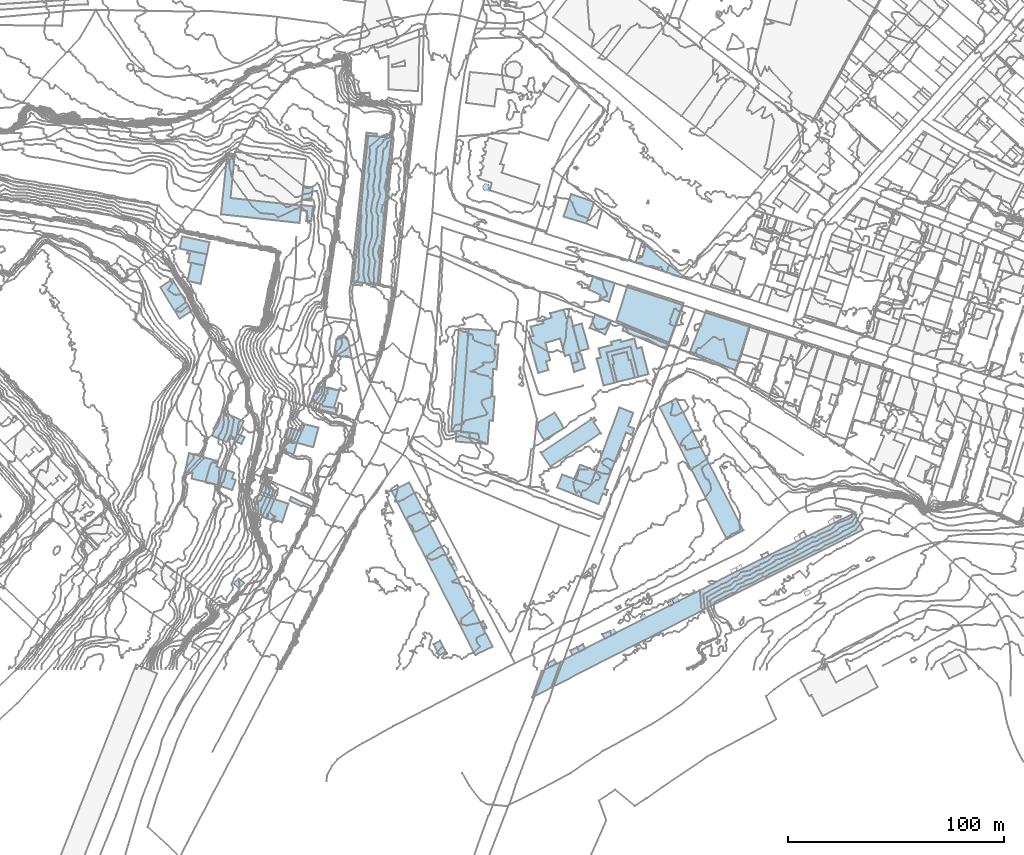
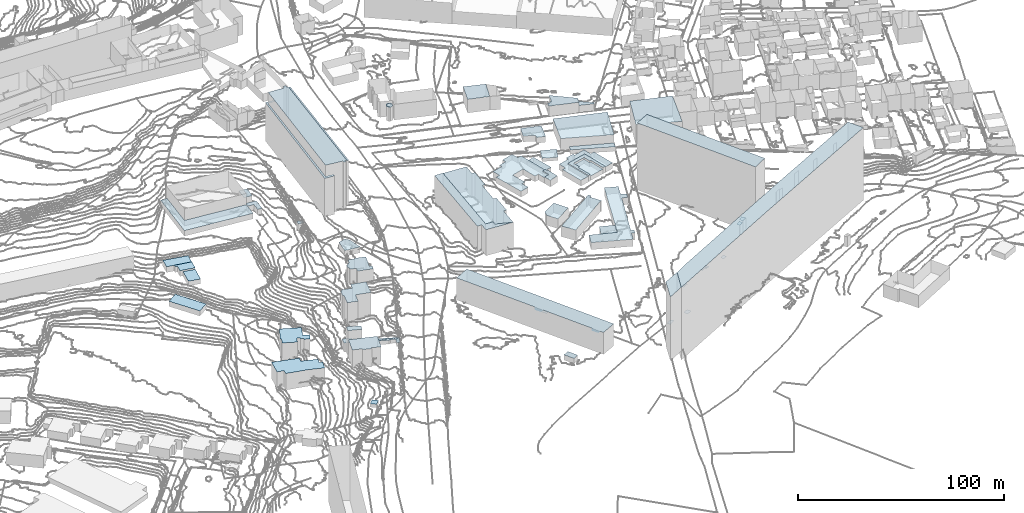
# Not in any storey, part 75 of 419: 58 roofs.
"""IFC2X3 model written with IfcOpenShell, lengths in metres."""

from ifc_helpers import new_model, si_unit, frame, origin_with_axes, place, context, subcontext, project, faceted_brep, element, save


model = new_model("IFC2X3")

# Units and contexts
model_context = context("Model", 3, precision=1e-05, world=origin_with_axes())
body_context = subcontext(model_context, "Body", "Model", "MODEL_VIEW")
ifc_project = project(units=[si_unit("AREAUNIT", "SQUARE_METRE"), si_unit("LENGTHUNIT", "METRE")], contexts=[model_context])

# Roofs
roof_1_placement = place(None, frame((775.4920204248, 16.0976909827, 70.1381985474), z_axis=(0.0, 0.0, 1.0), x_axis=(1.0, 0.0, 0.0)))
element("IfcRoof", 1, at=roof_1_placement, Name="Toiture 0", ShapeType="NOTDEFINED", context=body_context, shape_type="Brep", body=[
    faceted_brep([(0.0, 0.0, 24.5618014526), (0.7, -2.0, 24.5618014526), (3.0, -0.9000000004, 24.5618014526), (1.7999999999, 1.0999999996, 24.5618014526)], [[[0, 1, 2]], [[2, 3, 0]]]),
])
roof_2_placement = place(None, frame((766.0920204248, 156.0976909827, 75.7675977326), z_axis=(0.0, 0.0, 1.0), x_axis=(1.0, 0.0, 0.0)))
element("IfcRoof", 2, at=roof_2_placement, Name="Toiture 0", ShapeType="NOTDEFINED", context=body_context, shape_type="Brep", body=[
    faceted_brep([(10.0, 3.2000000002, 1.9324022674), (2.5, 6.0999999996, 1.9324022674), (0.0, 0.0, 1.9324022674), (7.2, -3.0, 1.9324022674)], [[[0, 1, 2]], [[2, 3, 0]]]),
])
roof_3_placement = place(None, frame((576.6920204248, 192.6976909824, 54.1280997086), z_axis=(0.0, 0.0, 1.0), x_axis=(1.0, 0.0, 0.0)))
element("IfcRoof", 3, at=roof_3_placement, Name="Toiture 0", ShapeType="NOTDEFINED", context=body_context, shape_type="Brep", body=[
    faceted_brep([(1.1, 5.7000000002, 3.3719002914), (0.0, 0.0, 3.3719002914), (12.6, -2.5999999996, 3.3719002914), (13.8, 3.0, 3.3719002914)], [[[0, 1, 2]], [[2, 3, 0]]]),
])
roof_4_placement = place(None, frame((765.6920204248, 173.8976909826, 76.811498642), z_axis=(0.0, 0.0, 1.0), x_axis=(1.0, 0.0, 0.0)))
element("IfcRoof", 4, at=roof_4_placement, Name="Toiture 0", ShapeType="NOTDEFINED", context=body_context, shape_type="Brep", body=[
    faceted_brep([(2.1, 6.0999999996, 3.488501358), (0.0, 0.0, 3.488501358), (5.4, -2.5999999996, 3.488501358), (5.0, -4.4000000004, 3.488501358), (9.4, -5.7000000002, 3.488501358), (12.0, 3.0, 3.488501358)], [[[0, 1, 2]], [[2, 3, 4]], [[4, 5, 0]], [[0, 2, 4]]]),
])
roof_5_placement = place(None, frame((632.5920204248, 210.3976909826, 59.9000015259), z_axis=(0.0, 0.0, 1.0), x_axis=(1.0, 0.0, 0.0)))
element("IfcRoof", 5, at=roof_5_placement, Name="Toiture 0", ShapeType="NOTDEFINED", context=body_context, shape_type="Brep", body=[
    faceted_brep([(5.7, 1.9000000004, 3.2999984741), (0.3, 2.5, 3.2999984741), (0.0, 0.0, 3.2999984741), (3.0, -0.2999999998, 3.2999984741), (2.6, -4.7999999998, 3.2999984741), (4.9, -5.0, 3.2999984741)], [[[0, 1, 2]], [[3, 4, 5]], [[0, 2, 3]], [[3, 5, 0]]]),
])
roof_6_placement = place(None, frame((757.0920204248, 7.1976909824, 70.2716003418), z_axis=(0.0, 0.0, 1.0), x_axis=(1.0, 0.0, 0.0)))
element("IfcRoof", 6, at=roof_6_placement, Name="Toiture 0", ShapeType="NOTDEFINED", context=body_context, shape_type="Brep", body=[
    faceted_brep([(0.0, 0.0, 25.2283996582), (1.2, -2.0999999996, 25.2283996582), (4.3, -0.5999999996, 25.2283996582), (3.3, 1.4000000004, 25.2283996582)], [[[0, 1, 2]], [[2, 3, 0]]]),
])
roof_7_placement = place(None, frame((694.0920204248, 9.9976909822, 71.9270027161), z_axis=(0.0, 0.0, 1.0), x_axis=(1.0, 0.0, 0.0)))
element("IfcRoof", 7, at=roof_7_placement, Name="Toiture 0", ShapeType="NOTDEFINED", context=body_context, shape_type="Brep", body=[
    faceted_brep([(0.0, 0.0, 3.0729972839), (2.6, -5.0999999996, 3.0729972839), (5.6, -3.5, 3.0729972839), (3.0, 1.6000000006, 3.0729972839)], [[[0, 1, 2]], [[2, 3, 0]]]),
])
roof_8_placement = place(None, frame((633.0920204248, 215.2976909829, 60.8579999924), z_axis=(0.0, 0.0, 1.0), x_axis=(1.0, 0.0, 0.0)))
element("IfcRoof", 8, at=roof_8_placement, Name="Toiture 0", ShapeType="NOTDEFINED", context=body_context, shape_type="Brep", body=[
    faceted_brep([(5.1, 5.7999999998, 4.1420000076), (0.7, 6.1999999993, 4.1420000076), (0.0, 0.0, 4.1420000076), (4.4, -0.4000000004, 4.1420000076)], [[[0, 1, 2]], [[2, 3, 0]]]),
])
roof_9_placement = place(None, frame((580.2920204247, 177.7976909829, 53.9178002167), z_axis=(0.0, 0.0, 1.0), x_axis=(1.0, 0.0, 0.0)))
element("IfcRoof", 9, at=roof_9_placement, Name="Toiture 0", ShapeType="NOTDEFINED", context=body_context, shape_type="Brep", body=[
    faceted_brep([(7.9, 7.0999999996, 2.7821997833), (1.8, 8.3999999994, 2.7821997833), (0.0, 0.0, 2.7821997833), (6.1000000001, -1.3000000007, 2.7821997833)], [[[0, 1, 2]], [[2, 3, 0]]]),
])
roof_10_placement = place(None, frame((580.1920204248, 190.5976909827, 54.1919986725), z_axis=(0.0, 0.0, 1.0), x_axis=(1.0, 0.0, 0.0)))
element("IfcRoof", 10, at=roof_10_placement, Name="Toiture 0", ShapeType="NOTDEFINED", context=body_context, shape_type="Brep", body=[
    faceted_brep([(9.1, -0.5, 3.4080013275), (0.3, 1.2999999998, 3.4080013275), (0.0, 0.0, 3.4080013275), (1.2000000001, -0.2000000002, 3.4080013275), (0.4, -4.1000000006, 3.4080013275), (8.0, -5.7000000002, 3.4080013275)], [[[0, 1, 2]], [[3, 4, 5]], [[0, 2, 3]], [[3, 5, 0]]]),
])
roof_11_placement = place(None, frame((627.4920204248, 76.2976909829, 64.1379997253), z_axis=(0.0, 0.0, 1.0), x_axis=(1.0, 0.0, 0.0)))
element("IfcRoof", 11, at=roof_11_placement, Name="Toiture 0", ShapeType="NOTDEFINED", context=body_context, shape_type="Brep", body=[
    faceted_brep([(7.4, -6.1000000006, 2.3620002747), (8.9, -6.8000000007, 2.3620002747), (10.7999999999, -3.0, 2.3620002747), (0.6, 1.6999999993, 2.3620002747), (0.0, 0.0, 2.3620002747), (5.2999999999, -2.5, 2.3620002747), (6.2, -2.3000000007, 2.3620002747), (8.7, -3.4000000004, 2.3620002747)], [[[0, 1, 2]], [[2, 3, 4]], [[4, 5, 6]], [[7, 0, 2]], [[2, 4, 6]], [[6, 7, 2]]]),
])
roof_12_placement = place(None, frame((700.3920204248, 49.5976909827, 72.1448019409), z_axis=(0.0, 0.0, 1.0), x_axis=(1.0, 0.0, 0.0)))
element("IfcRoof", 12, at=roof_12_placement, Name="Toiture 0", ShapeType="NOTDEFINED", context=body_context, shape_type="Brep", body=[
    faceted_brep([(1.6, 0.7000000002, 3.8551980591), (0.0, 0.0, 3.8551980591), (1.7, -3.1000000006, 3.8551980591), (3.3999999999, -2.5, 3.8551980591)], [[[0, 1, 2]], [[2, 3, 0]]]),
])
roof_13_placement = place(None, frame((773.9920204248, 144.7976909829, 75.1139984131), z_axis=(0.0, 0.0, 1.0), x_axis=(1.0, 0.0, 0.0)))
element("IfcRoof", 13, at=roof_13_placement, Name="Toiture 0", ShapeType="NOTDEFINED", context=body_context, shape_type="Brep", body=[
    faceted_brep([(0.0, 0.0, 3.6860015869), (3.5, -14.0, 3.6860015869), (4.7999999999, -13.6000000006, 3.6860015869), (2.7, -5.5, 3.6860015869), (3.5, -5.3000000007, 3.6860015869), (2.5, -1.4000000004, 3.6860015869), (9.2999999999, 0.2999999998, 3.6860015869), (10.2, -3.6000000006, 3.6860015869), (11.0, -3.4000000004, 3.6860015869), (13.0, -11.6000000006, 3.6860015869), (14.6, -11.2000000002, 3.6860015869), (11.1, 2.7999999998, 3.6860015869)], [[[0, 1, 2]], [[3, 4, 5]], [[6, 7, 8]], [[8, 9, 10]], [[0, 2, 3]], [[6, 8, 10]], [[0, 3, 5]], [[6, 10, 11]], [[11, 0, 5]], [[5, 6, 11]]]),
])
roof_14_placement = place(None, frame((753.9920204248, 207.4976909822, 77.5985978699), z_axis=(0.0, 0.0, 1.0), x_axis=(1.0, 0.0, 0.0)))
element("IfcRoof", 14, at=roof_14_placement, Name="Toiture 0", ShapeType="NOTDEFINED", context=body_context, shape_type="Brep", body=[
    faceted_brep([(14.2, 6.8000000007, 8.1014021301), (3.5, 10.4000000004, 8.1014021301), (0.0, 0.0, 8.1014021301), (10.6, -3.1999999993, 8.1014021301)], [[[0, 1, 2]], [[2, 3, 0]]]),
])
roof_15_placement = place(None, frame((787.2920204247, 186.2976909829, 76.8846023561), z_axis=(0.0, 0.0, 1.0), x_axis=(1.0, 0.0, 0.0)))
element("IfcRoof", 15, at=roof_15_placement, Name="Toiture 0", ShapeType="NOTDEFINED", context=body_context, shape_type="Brep", body=[
    faceted_brep([(0.8, 2.3999999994, 6.0153976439), (0.0, 0.0, 6.0153976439), (14.4, -4.5, 6.0153976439), (15.5, -1.1000000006, 6.0153976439), (4.6000000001, 7.8999999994, 6.0153976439), (3.1000000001, 2.5999999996, 6.0153976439), (2.2000000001, 3.0, 6.0153976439), (1.9, 2.0, 6.0153976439)], [[[0, 1, 2]], [[2, 3, 4]], [[5, 6, 7]], [[7, 0, 2]], [[2, 4, 5]], [[5, 7, 2]]]),
])
roof_16_placement = place(None, frame((579.1920204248, 89.7976909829, 46.9288002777), z_axis=(0.0, 0.0, 1.0), x_axis=(1.0, 0.0, 0.0)))
element("IfcRoof", 16, at=roof_16_placement, Name="Toiture 0", ShapeType="NOTDEFINED", context=body_context, shape_type="Brep", body=[
    faceted_brep([(3.5, -0.8000000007, 9.7711997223), (3.0, -3.3000000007, 9.7711997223), (14.2000000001, -6.0, 9.7711997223), (21.8, -8.6000000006, 9.7711997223), (23.4, -3.9000000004, 9.7711997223), (21.7000000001, -3.3000000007, 9.7711997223), (22.6, -0.6000000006, 9.7711997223), (14.6, 2.1999999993, 9.7711997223), (15.3, 4.6999999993, 9.7711997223), (1.8, 8.5, 9.7711997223), (0.0, 0.0, 9.7711997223)], [[[0, 1, 2]], [[2, 3, 4]], [[5, 6, 7]], [[7, 8, 9]], [[9, 10, 0]], [[0, 2, 4]], [[5, 7, 9]], [[0, 4, 5]], [[5, 9, 0]]]),
])
roof_17_placement = place(None, frame((595.7920204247, 208.5976909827, 59.3163995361), z_axis=(0.0, 0.0, 1.0), x_axis=(1.0, 0.0, 0.0)))
element("IfcRoof", 17, at=roof_17_placement, Name="Toiture 0", ShapeType="NOTDEFINED", context=body_context, shape_type="Brep", body=[
    faceted_brep([(6.4, 27.7999999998, 3.2836004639), (2.9, 28.0999999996, 3.2836004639), (0.0, 0.0, 3.2836004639), (36.3, -4.0, 3.2836004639), (37.1000000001, 4.0, 3.2836004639), (4.4, 7.5, 3.2836004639)], [[[0, 1, 2]], [[2, 3, 4]], [[5, 0, 2]], [[2, 4, 5]]]),
])
roof_18_placement = place(None, frame((643.3920204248, 180.3976909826, 63.0056015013), z_axis=(0.0, 0.0, 1.0), x_axis=(1.0, 0.0, 0.0)))
element("IfcRoof", 18, at=roof_18_placement, Name="Toiture 0", ShapeType="NOTDEFINED", context=body_context, shape_type="Brep", body=[
    faceted_brep([(2.7999999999, -0.5, 3.9943984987), (3.2, 1.7000000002, 3.9943984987), (0.3999999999, 2.2000000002, 3.9943984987), (0.0, 0.0, 3.9943984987)], [[[0, 1, 2]], [[2, 3, 0]]]),
])
roof_19_placement = place(None, frame((623.9920204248, 99.1976909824, 61.9557989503), z_axis=(0.0, 0.0, 1.0), x_axis=(1.0, 0.0, 0.0)))
element("IfcRoof", 19, at=roof_19_placement, Name="Toiture 0", ShapeType="NOTDEFINED", context=body_context, shape_type="Brep", body=[
    faceted_brep([(14.4, 1.7999999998, 14.3442010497), (16.7999999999, 10.7999999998, 14.3442010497), (9.2999999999, 12.7000000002, 14.3442010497), (8.2999999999, 9.5, 14.3442010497), (3.1, 10.9000000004, 14.3442010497), (2.7999999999, 10.0, 14.3442010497), (2.2, 10.1000000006, 14.3442010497), (1.0, 6.2999999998, 14.3442010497), (1.7, 6.1000000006, 14.3442010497), (0.0, 0.0, 14.3442010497), (5.2999999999, -1.5, 14.3442010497), (6.9, 3.7999999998, 14.3442010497)], [[[0, 1, 2]], [[3, 4, 5]], [[5, 6, 7]], [[8, 9, 10]], [[11, 0, 2]], [[3, 5, 7]], [[8, 10, 11]], [[11, 2, 3]], [[3, 7, 8]], [[8, 11, 3]]]),
])
roof_20_placement = place(None, frame((702.0920204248, 46.4976909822, 72.1290023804), z_axis=(0.0, 0.0, 1.0), x_axis=(1.0, 0.0, 0.0)))
element("IfcRoof", 20, at=roof_20_placement, Name="Toiture 0", ShapeType="NOTDEFINED", context=body_context, shape_type="Brep", body=[
    faceted_brep([(1.7, 0.6000000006, 3.5709976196), (0.0, 0.0, 3.5709976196), (1.6, -2.7999999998, 3.5709976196), (3.2, -2.0999999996, 3.5709976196)], [[[0, 1, 2]], [[2, 3, 0]]]),
])
roof_21_placement = place(None, frame((746.6920204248, 1.0976909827, 70.5879999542), z_axis=(0.0, 0.0, 1.0), x_axis=(1.0, 0.0, 0.0)))
element("IfcRoof", 21, at=roof_21_placement, Name="Toiture 0", ShapeType="NOTDEFINED", context=body_context, shape_type="Brep", body=[
    faceted_brep([(2.9, 1.7999999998, 10.1120000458), (0.0, 0.0, 10.1120000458), (0.8, -1.7000000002, 10.1120000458), (4.2000000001, 0.2000000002, 10.1120000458)], [[[0, 1, 2]], [[2, 3, 0]]]),
])
roof_22_placement = place(None, frame((760.3920204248, 8.5976909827, 70.1712017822), z_axis=(0.0, 0.0, 1.0), x_axis=(1.0, 0.0, 0.0)))
element("IfcRoof", 22, at=roof_22_placement, Name="Toiture 0", ShapeType="NOTDEFINED", context=body_context, shape_type="Brep", body=[
    faceted_brep([(0.0, 0.0, 7.5287982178), (1.0, -2.0, 7.5287982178), (3.7999999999, -0.7000000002, 7.5287982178), (2.6, 1.3999999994, 7.5287982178)], [[[0, 1, 2]], [[2, 3, 0]]]),
])
roof_23_placement = place(None, frame((610.4920204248, 70.8976909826, 59.464500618), z_axis=(0.0, 0.0, 1.0), x_axis=(1.0, 0.0, 0.0)))
element("IfcRoof", 23, at=roof_23_placement, Name="Toiture 0", ShapeType="NOTDEFINED", context=body_context, shape_type="Brep", body=[
    faceted_brep([(16.4, 4.0, 10.735499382), (2.7, 8.4000000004, 10.735499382), (0.0, 0.0, 10.735499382), (4.7, -1.5999999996, 10.735499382), (4.5, -2.2000000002, 10.735499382), (8.7999999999, -3.7000000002, 10.735499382), (9.0, -3.0, 10.735499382), (13.5, -4.5999999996, 10.735499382)], [[[0, 1, 2]], [[3, 4, 5]], [[6, 7, 0]], [[0, 2, 3]], [[3, 5, 6]], [[6, 0, 3]]]),
])
roof_24_placement = place(None, frame((812.4920204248, 145.2976909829, 75.759199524), z_axis=(0.0, 0.0, 1.0), x_axis=(1.0, 0.0, 0.0)))
element("IfcRoof", 24, at=roof_24_placement, Name="Toiture 0", ShapeType="NOTDEFINED", context=body_context, shape_type="Brep", body=[
    faceted_brep([(0.0, 0.0, 12.140800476), (20.9, -8.8000000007, 12.140800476), (27.6, 12.2999999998, 12.140800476), (7.4, 18.7999999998, 12.140800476)], [[[0, 1, 2]], [[2, 3, 0]]]),
])
roof_25_placement = place(None, frame((778.4920204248, 159.4976909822, 76.3899993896), z_axis=(0.0, 0.0, 1.0), x_axis=(1.0, 0.0, 0.0)))
element("IfcRoof", 25, at=roof_25_placement, Name="Toiture 0", ShapeType="NOTDEFINED", context=body_context, shape_type="Brep", body=[
    faceted_brep([(5.1, 16.4000000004, 6.6100006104), (0.0, 0.0, 6.6100006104), (24.1, -10.0999999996, 6.6100006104), (30.9, 8.1000000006, 6.6100006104)], [[[0, 1, 2]], [[2, 3, 0]]]),
])
roof_26_placement = place(None, frame((601.4920204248, 37.9976909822, 59.4713992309), z_axis=(0.0, 0.0, 1.0), x_axis=(1.0, 0.0, 0.0)))
element("IfcRoof", 26, at=roof_26_placement, Name="Toiture 0", ShapeType="NOTDEFINED", context=body_context, shape_type="Brep", body=[
    faceted_brep([(0.0, 0.0, 2.0286007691), (2.4, -2.0999999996, 2.0286007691), (4.9, 0.3000000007, 2.0286007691), (2.5, 2.4000000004, 2.0286007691)], [[[0, 1, 2]], [[2, 3, 0]]]),
])
roof_27_placement = place(None, frame((613.7920204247, 84.6976909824, 59.4539994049), z_axis=(0.0, 0.0, 1.0), x_axis=(1.0, 0.0, 0.0)))
element("IfcRoof", 27, at=roof_27_placement, Name="Toiture 0", ShapeType="NOTDEFINED", context=body_context, shape_type="Brep", body=[
    faceted_brep([(5.5, 2.2000000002, 5.2460005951), (1.0, 3.5, 5.2460005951), (0.0, 0.0, 5.2460005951), (4.5, -1.2999999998, 5.2460005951)], [[[0, 1, 2]], [[2, 3, 0]]]),
])
roof_28_placement = place(None, frame((613.5920204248, 80.5976909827, 59.6855998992), z_axis=(0.0, 0.0, 1.0), x_axis=(1.0, 0.0, 0.0)))
element("IfcRoof", 28, at=roof_28_placement, Name="Toiture 0", ShapeType="NOTDEFINED", context=body_context, shape_type="Brep", body=[
    faceted_brep([(7.6, 0.2999999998, 15.0144001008), (0.9, 3.2000000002, 15.0144001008), (0.0, 0.0, 15.0144001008), (6.5, -2.4000000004, 15.0144001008)], [[[0, 1, 2]], [[2, 3, 0]]]),
])
roof_29_placement = place(None, frame((804.1920204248, 30.5976909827, 70.0514993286), z_axis=(0.0, 0.0, 1.0), x_axis=(1.0, 0.0, 0.0)))
element("IfcRoof", 29, at=roof_29_placement, Name="Toiture 0", ShapeType="NOTDEFINED", context=body_context, shape_type="Brep", body=[
    faceted_brep([(0.9, -1.9000000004, 34.1485006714), (3.5, -0.5, 34.1485006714), (2.3, 1.5, 34.1485006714), (0.0, 0.0, 34.1485006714)], [[[0, 1, 2]], [[2, 3, 0]]]),
])
roof_30_placement = place(None, frame((801.8920204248, 28.9976909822, 70.0737995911), z_axis=(0.0, 0.0, 1.0), x_axis=(1.0, 0.0, 0.0)))
element("IfcRoof", 30, at=roof_30_placement, Name="Toiture 0", ShapeType="NOTDEFINED", context=body_context, shape_type="Brep", body=[
    faceted_brep([(0.7999999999, -1.5999999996, 33.1262004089), (3.2, -0.2999999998, 33.1262004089), (2.2999999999, 1.6000000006, 33.1262004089), (0.0, 0.0, 33.1262004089)], [[[0, 1, 2]], [[2, 3, 0]]]),
])
roof_31_placement = place(None, frame((789.2920204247, 22.8976909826, 70.1088000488), z_axis=(0.0, 0.0, 1.0), x_axis=(1.0, 0.0, 0.0)))
element("IfcRoof", 31, at=roof_31_placement, Name="Toiture 0", ShapeType="NOTDEFINED", context=body_context, shape_type="Brep", body=[
    faceted_brep([(0.0, 0.0, 21.3911999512), (0.6000000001, -1.7000000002, 21.3911999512), (3.1000000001, -0.5, 21.3911999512), (2.1000000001, 1.2999999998, 21.3911999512)], [[[0, 1, 2]], [[2, 3, 0]]]),
])
roof_32_placement = place(None, frame((801.6920204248, 181.7976909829, 76.7789985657), z_axis=(0.0, 0.0, 1.0), x_axis=(1.0, 0.0, 0.0)))
element("IfcRoof", 32, at=roof_32_placement, Name="Toiture 0", ShapeType="NOTDEFINED", context=body_context, shape_type="Brep", body=[
    faceted_brep([(1.1, 3.3999999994, 4.2210014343), (0.0, 0.0, 4.2210014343), (7.0, -2.4000000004, 4.2210014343), (7.6, -1.7000000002, 4.2210014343)], [[[0, 1, 2]], [[2, 3, 0]]]),
])
roof_33_placement = place(None, frame((776.4920204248, 143.3976909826, 75.1452017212), z_axis=(0.0, 0.0, 1.0), x_axis=(1.0, 0.0, 0.0)))
element("IfcRoof", 33, at=roof_33_placement, Name="Toiture 0", ShapeType="NOTDEFINED", context=body_context, shape_type="Brep", body=[
    faceted_brep([(0.2, -4.0999999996, 2.6547982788), (2.2999999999, -12.2000000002, 2.6547982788), (10.5, -10.2000000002, 2.6547982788), (8.5, -2.0, 2.6547982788), (7.7, -2.2000000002, 2.6547982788), (6.7999999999, 1.7000000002, 2.6547982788), (0.0, 0.0, 2.6547982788), (1.0, -3.9000000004, 2.6547982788)], [[[0, 1, 2]], [[2, 3, 4]], [[4, 5, 6]], [[7, 0, 2]], [[2, 4, 6]], [[6, 7, 2]]]),
])
roof_34_placement = place(None, frame((769.3920204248, 141.9976909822, 75.0448005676), z_axis=(0.0, 0.0, 1.0), x_axis=(1.0, 0.0, 0.0)))
element("IfcRoof", 34, at=roof_34_placement, Name="Toiture 0", ShapeType="NOTDEFINED", context=body_context, shape_type="Brep", body=[
    faceted_brep([(3.2, -12.3999999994, 3.3551994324), (8.1, -11.1999999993, 3.3551994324), (4.6, 2.8000000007, 3.3551994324), (15.7, 5.6000000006, 3.3551994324), (19.2, -8.3999999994, 3.3551994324), (23.8999999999, -7.1999999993, 3.3551994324), (20.7, 5.3000000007, 3.3551994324), (18.6, 4.7000000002, 3.3551994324), (17.3999999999, 9.3000000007, 3.3551994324), (11.2999999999, 7.7000000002, 3.3551994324), (11.0, 8.8000000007, 3.3551994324), (6.6, 7.7000000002, 3.3551994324), (7.0, 6.3000000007, 3.3551994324), (0.8999999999, 4.7000000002, 3.3551994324), (1.8999999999, 0.5, 3.3551994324), (0.0, 0.0, 3.3551994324)], [[[0, 1, 2]], [[3, 4, 5]], [[5, 6, 7]], [[7, 8, 9]], [[9, 10, 11]], [[12, 13, 14]], [[14, 15, 0]], [[3, 5, 7]], [[9, 11, 12]], [[14, 0, 2]], [[3, 7, 9]], [[12, 14, 2]], [[2, 3, 9]], [[9, 12, 2]]]),
])
roof_35_placement = place(None, frame((741.8920204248, 109.6976909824, 74.6950004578), z_axis=(0.0, 0.0, 1.0), x_axis=(1.0, 0.0, 0.0)))
element("IfcRoof", 35, at=roof_35_placement, Name="Toiture 0", ShapeType="NOTDEFINED", context=body_context, shape_type="Brep", body=[
    faceted_brep([(0.0, 0.0, 5.8049995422), (3.2, -5.2999999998, 5.8049995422), (12.2999999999, 0.2000000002, 5.8049995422), (8.1, 7.4000000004, 5.8049995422), (0.6, 2.9000000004, 5.8049995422)], [[[0, 1, 2]], [[2, 3, 4]], [[4, 0, 2]]]),
])
roof_36_placement = place(None, frame((668.0920204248, 176.0976909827, 71.9225025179), z_axis=(0.0, 0.0, 1.0), x_axis=(1.0, 0.0, 0.0)))
element("IfcRoof", 36, at=roof_36_placement, Name="Toiture 0", ShapeType="NOTDEFINED", context=body_context, shape_type="Brep", body=[
    faceted_brep([(7.5, 67.7999999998, 26.5774974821), (6.5, 67.8999999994, 26.5774974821), (0.0, 0.0, 26.5774974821), (1.0, -0.1000000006, 26.5774974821)], [[[0, 1, 2]], [[2, 3, 0]]]),
])
roof_37_placement = place(None, frame((758.2920204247, 156.9976909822, 75.5342018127), z_axis=(0.0, 0.0, 1.0), x_axis=(1.0, 0.0, 0.0)))
element("IfcRoof", 37, at=roof_37_placement, Name="Toiture 0", ShapeType="NOTDEFINED", context=body_context, shape_type="Brep", body=[
    faceted_brep([(4.2000000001, 1.2000000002, 2.7657981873), (0.0, 0.0, 2.7657981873), (3.2000000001, -11.5, 2.7657981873), (7.4, -10.3999999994, 2.7657981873)], [[[0, 1, 2]], [[2, 3, 0]]]),
])
roof_38_placement = place(None, frame((716.4920204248, 221.2976909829, 78.1391992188), z_axis=(0.0, 0.0, 1.0), x_axis=(1.0, 0.0, 0.0)))
element("IfcRoof", 38, at=roof_38_placement, Name="Toiture 0", ShapeType="NOTDEFINED", context=body_context, shape_type="Brep", body=[
    faceted_brep([(3.2, 0.2999999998, 8.3608007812), (2.7999999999, 1.1999999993, 8.3608007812), (1.4, 1.6999999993, 8.3608007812), (0.7, 1.3999999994, 8.3608007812), (0.0, 0.0, 8.3608007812), (0.5, -1.4000000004, 8.3608007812), (1.2, -1.8000000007, 8.3608007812), (2.9, -1.3000000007, 8.3608007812)], [[[0, 1, 2]], [[2, 3, 4]], [[4, 5, 6]], [[6, 7, 0]], [[0, 2, 4]], [[4, 6, 0]]]),
])
roof_39_placement = place(None, frame((715.4920204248, 19.9976909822, 71.8315977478), z_axis=(0.0, 0.0, 1.0), x_axis=(1.0, 0.0, 0.0)))
element("IfcRoof", 39, at=roof_39_placement, Name="Toiture 0", ShapeType="NOTDEFINED", context=body_context, shape_type="Brep", body=[
    faceted_brep([(1.7, -3.0999999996, 4.3684022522), (3.1, -2.5, 4.3684022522), (1.4, 0.8000000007, 4.3684022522), (0.0, 0.0, 4.3684022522)], [[[0, 1, 2]], [[2, 3, 0]]]),
])
roof_40_placement = place(None, frame((648.0920204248, 143.3976909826, 68.536000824), z_axis=(0.0, 0.0, 1.0), x_axis=(1.0, 0.0, 0.0)))
element("IfcRoof", 40, at=roof_40_placement, Name="Toiture 0", ShapeType="NOTDEFINED", context=body_context, shape_type="Brep", body=[
    faceted_brep([(0.0, 0.0, 3.463999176), (8.1, -1.0, 3.463999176), (6.6, 6.5, 3.463999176), (5.0, 8.4000000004, 3.463999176), (1.1, 7.5, 3.463999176)], [[[0, 1, 2]], [[2, 3, 4]], [[4, 0, 2]]]),
])
roof_41_placement = place(None, frame((655.7920204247, 176.1976909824, 69.400798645), z_axis=(0.0, 0.0, 1.0), x_axis=(1.0, 0.0, 0.0)))
element("IfcRoof", 41, at=roof_41_placement, Name="Toiture 0", ShapeType="NOTDEFINED", context=body_context, shape_type="Brep", body=[
    faceted_brep([(8.0, 68.7000000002, 22.799201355), (11.9, 68.4000000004, 22.799201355), (12.0, 69.6000000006, 22.799201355), (0.0, 0.0, 22.799201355), (5.2000000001, -0.5, 22.799201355), (5.4, 0.7999999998, 22.799201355), (7.2000000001, 70.1000000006, 22.799201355), (1.2000000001, 1.2999999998, 22.799201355)], [[[0, 1, 2]], [[3, 4, 5]], [[0, 2, 6]], [[3, 5, 7]], [[7, 0, 6]], [[6, 3, 7]]]),
])
roof_42_placement = place(None, frame((591.5920204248, 106.2976909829, 48.8435992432), z_axis=(0.0, 0.0, 1.0), x_axis=(1.0, 0.0, 0.0)))
element("IfcRoof", 42, at=roof_42_placement, Name="Toiture 0", ShapeType="NOTDEFINED", context=body_context, shape_type="Brep", body=[
    faceted_brep([(2.2, 5.8999999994, 10.6564007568), (0.8, 3.2999999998, 10.6564007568), (1.4, 3.0, 10.6564007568), (0.0, 0.0, 10.6564007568), (6.8, -3.0, 10.6564007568), (9.9, -0.7000000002, 10.6564007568), (9.6, -1.4000000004, 10.6564007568), (11.0, -2.1000000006, 10.6564007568), (10.8, -2.7000000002, 10.6564007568), (13.6, -3.7000000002, 10.6564007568), (15.1, -0.6000000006, 10.6564007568), (11.9, 0.6999999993, 10.6564007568), (14.7, 6.6999999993, 10.6564007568), (4.7, 11.0, 10.6564007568), (8.3, 0.0, 10.6564007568)], [[[0, 1, 2]], [[2, 3, 4]], [[5, 6, 7]], [[7, 8, 9]], [[9, 10, 11]], [[11, 12, 13]], [[13, 0, 2]], [[2, 4, 14]], [[5, 7, 9]], [[9, 11, 13]], [[13, 2, 14]], [[5, 9, 13]], [[13, 14, 5]]]),
])
roof_43_placement = place(None, frame((757.9920204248, 139.6976909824, 75.5514982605), z_axis=(0.0, 0.0, 1.0), x_axis=(1.0, 0.0, 0.0)))
element("IfcRoof", 43, at=roof_43_placement, Name="Toiture 0", ShapeType="NOTDEFINED", context=body_context, shape_type="Brep", body=[
    faceted_brep([(2.9, 0.7999999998, 3.8485017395), (0.0, 0.0, 3.8485017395), (1.0, -3.8999999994, 3.8485017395), (5.9, -2.2000000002, 3.8485017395), (4.2999999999, 4.2000000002, 3.8485017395), (3.7999999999, 4.1000000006, 3.8485017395), (3.6, 5.4000000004, 3.8485017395), (1.7999999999, 4.9000000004, 3.8485017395)], [[[0, 1, 2]], [[2, 3, 4]], [[5, 6, 7]], [[0, 2, 4]], [[5, 7, 0]], [[0, 4, 5]]]),
])
roof_44_placement = place(None, frame((771.8920204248, 14.5976909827, 70.1153973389), z_axis=(0.0, 0.0, 1.0), x_axis=(1.0, 0.0, 0.0)))
element("IfcRoof", 44, at=roof_44_placement, Name="Toiture 0", ShapeType="NOTDEFINED", context=body_context, shape_type="Brep", body=[
    faceted_brep([(1.2999999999, -2.0, 25.5846026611), (4.2999999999, -0.5, 25.5846026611), (3.6, 1.5, 25.5846026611), (0.0, 0.0, 25.5846026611)], [[[0, 1, 2]], [[2, 3, 0]]]),
])
roof_45_placement = place(None, frame((781.1920204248, 154.8976909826, 75.5269006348), z_axis=(0.0, 0.0, 1.0), x_axis=(1.0, 0.0, 0.0)))
element("IfcRoof", 45, at=roof_45_placement, Name="Toiture 0", ShapeType="NOTDEFINED", context=body_context, shape_type="Brep", body=[
    faceted_brep([(21.4, -5.5, 2.5730993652), (1.1, 2.7000000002, 2.5730993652), (0.0, 0.0, 2.5730993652), (20.3, -8.5999999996, 2.5730993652)], [[[0, 1, 2]], [[2, 3, 0]]]),
])
roof_46_placement = place(None, frame((758.8920204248, 86.2976909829, 73.9479999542), z_axis=(0.0, 0.0, 1.0), x_axis=(1.0, 0.0, 0.0)))
element("IfcRoof", 46, at=roof_46_placement, Name="Toiture 0", ShapeType="NOTDEFINED", context=body_context, shape_type="Brep", body=[
    faceted_brep([(2.7999999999, 6.5999999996, 3.1520000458), (0.0, 0.0, 3.1520000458), (7.6, -2.7000000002, 3.1520000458), (10.0, 3.7999999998, 3.1520000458)], [[[0, 1, 2]], [[2, 3, 0]]]),
])
roof_47_placement = place(None, frame((674.6920204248, 80.6976909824, 71.4930007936), z_axis=(0.0, 0.0, 1.0), x_axis=(1.0, 0.0, 0.0)))
element("IfcRoof", 47, at=roof_47_placement, Name="Toiture 0", ShapeType="NOTDEFINED", context=body_context, shape_type="Brep", body=[
    faceted_brep([(46.6, -71.7999999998, 13.0069992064), (11.0, -1.7000000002, 13.0069992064), (8.0, 4.1000000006, 13.0069992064), (0.0, 0.0, 13.0069992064), (38.6, -75.5999999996, 13.0069992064)], [[[0, 1, 2]], [[2, 3, 4]], [[4, 0, 2]]]),
])
roof_48_placement = place(None, frame((743.4920204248, 98.7976909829, 73.9909980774), z_axis=(0.0, 0.0, 1.0), x_axis=(1.0, 0.0, 0.0)))
element("IfcRoof", 48, at=roof_48_placement, Name="Toiture 0", ShapeType="NOTDEFINED", context=body_context, shape_type="Brep", body=[
    faceted_brep([(27.2999999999, 8.5999999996, 6.3090019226), (27.9, 8.5999999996, 6.3090019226), (24.4, 14.0, 6.3090019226), (25.5, 14.6999999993, 6.3090019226), (24.7, 16.0, 6.3090019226), (23.5, 15.1999999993, 6.3090019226), (23.2, 15.5999999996, 6.3090019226), (23.1, 14.8999999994, 6.3090019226), (0.5, -0.2000000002, 6.3090019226), (0.0, 0.0, 6.3090019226), (4.7, -6.9000000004, 6.3090019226), (4.7999999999, -6.5, 6.3090019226)], [[[0, 1, 2]], [[2, 3, 4]], [[5, 6, 7]], [[8, 9, 10]], [[11, 0, 2]], [[2, 4, 5]], [[8, 10, 11]], [[11, 2, 5]], [[7, 8, 11]], [[11, 5, 7]]]),
])
roof_49_placement = place(None, frame((638.2920204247, 123.6976909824, 68.2908021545), z_axis=(0.0, 0.0, 1.0), x_axis=(1.0, 0.0, 0.0)))
element("IfcRoof", 49, at=roof_49_placement, Name="Toiture 0", ShapeType="NOTDEFINED", context=body_context, shape_type="Brep", body=[
    faceted_brep([(9.7000000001, -4.2999999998, 9.1091978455), (12.2000000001, 3.4000000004, 9.1091978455), (6.8, 5.0, 9.1091978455), (6.7000000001, 4.6000000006, 9.1091978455), (3.4, 5.4000000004, 9.1091978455), (2.5, 2.7999999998, 9.1091978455), (1.9, 3.0, 9.1091978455), (1.6000000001, 2.2000000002, 9.1091978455), (0.6000000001, 1.9000000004, 9.1091978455), (0.0, 0.0, 9.1091978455), (0.5, -1.0, 9.1091978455), (0.2000000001, -1.8999999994, 9.1091978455), (3.3, -2.7999999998, 9.1091978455), (2.6000000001, -5.0999999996, 9.1091978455), (10.3, -7.2000000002, 9.1091978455), (11.1000000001, -4.7999999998, 9.1091978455)], [[[0, 1, 2]], [[3, 4, 5]], [[5, 6, 7]], [[7, 8, 9]], [[10, 11, 12]], [[12, 13, 14]], [[14, 15, 0]], [[0, 2, 3]], [[3, 5, 7]], [[7, 9, 10]], [[10, 12, 14]], [[14, 0, 3]], [[3, 7, 10]], [[10, 14, 3]]]),
])
roof_50_placement = place(None, frame((567.7920204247, 174.9976909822, 47.8444007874), z_axis=(0.0, 0.0, 1.0), x_axis=(1.0, 0.0, 0.0)))
element("IfcRoof", 50, at=roof_50_placement, Name="Toiture 0", ShapeType="NOTDEFINED", context=body_context, shape_type="Brep", body=[
    faceted_brep([(8.9, -14.5999999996, 3.0555992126), (14.5, -10.8999999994, 3.0555992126), (5.6000000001, 3.7000000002, 3.0555992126), (0.0, 0.0, 3.0555992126)], [[[0, 1, 2]], [[2, 3, 0]]]),
])
roof_51_placement = place(None, frame((656.9920204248, 177.4976909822, 69.8758000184), z_axis=(0.0, 0.0, 1.0), x_axis=(1.0, 0.0, 0.0)))
element("IfcRoof", 51, at=roof_51_placement, Name="Toiture 0", ShapeType="NOTDEFINED", context=body_context, shape_type="Brep", body=[
    faceted_brep([(11.1, -1.3999999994, 28.9241999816), (17.6, 66.5, 28.9241999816), (16.9, 66.6000000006, 28.9241999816), (17.0, 68.0, 28.9241999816), (15.4, 68.1000000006, 28.9241999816), (15.2999999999, 66.7000000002, 28.9241999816), (6.7999999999, 67.4000000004, 28.9241999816), (0.0, 0.0, 28.9241999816), (9.1, -1.0999999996, 28.9241999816), (8.9, -2.1999999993, 28.9241999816), (10.1, -2.2999999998, 28.9241999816), (10.2, -1.2999999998, 28.9241999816)], [[[0, 1, 2]], [[2, 3, 4]], [[5, 6, 7]], [[8, 9, 10]], [[11, 0, 2]], [[2, 4, 5]], [[5, 7, 8]], [[8, 10, 11]], [[11, 2, 5]], [[5, 8, 11]]]),
])
roof_52_placement = place(None, frame((739.4920204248, -14.6023090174, 70.4319984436), z_axis=(0.0, 0.0, 1.0), x_axis=(1.0, 0.0, 0.0)))
element("IfcRoof", 52, at=roof_52_placement, Name="Toiture 0", ShapeType="NOTDEFINED", context=body_context, shape_type="Brep", body=[
    faceted_brep([(8.7, 4.5, 37.8680015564), (13.2999999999, 16.5, 37.8680015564), (4.5, 12.2000000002, 37.8680015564), (0.0, 0.0, 37.8680015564)], [[[0, 1, 2]], [[2, 3, 0]]]),
])
roof_53_placement = place(None, frame((748.1920204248, -10.1023090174, 65.1494976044), z_axis=(0.0, 0.0, 1.0), x_axis=(1.0, 0.0, 0.0)))
element("IfcRoof", 53, at=roof_53_placement, Name="Toiture 0", ShapeType="NOTDEFINED", context=body_context, shape_type="Brep", body=[
    faceted_brep([(10.1, 15.2000000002, 43.0505023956), (4.6, 12.0, 43.0505023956), (0.0, 0.0, 43.0505023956), (68.8, 35.2000000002, 43.0505023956), (144.3, 73.0, 43.0505023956), (140.2000000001, 80.7999999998, 43.0505023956), (86.1, 53.9000000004, 43.0505023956)], [[[0, 1, 2]], [[3, 4, 5]], [[5, 6, 0]], [[0, 2, 3]], [[3, 5, 0]]]),
])
roof_54_placement = place(None, frame((798.3920204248, 119.5976909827, 69.8219974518), z_axis=(0.0, 0.0, 1.0), x_axis=(1.0, 0.0, 0.0)))
element("IfcRoof", 54, at=roof_54_placement, Name="Toiture 0", ShapeType="NOTDEFINED", context=body_context, shape_type="Brep", body=[
    faceted_brep([(0.0, 0.0, 39.6780025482), (31.1, -61.0, 39.6780025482), (38.7, -56.9000000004, 39.6780025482), (7.7, 3.8999999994, 39.6780025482)], [[[0, 1, 2]], [[2, 3, 0]]]),
])
roof_55_placement = place(None, frame((750.9920204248, 82.3976909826, 73.4999984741), z_axis=(0.0, 0.0, 1.0), x_axis=(1.0, 0.0, 0.0)))
element("IfcRoof", 55, at=roof_55_placement, Name="Toiture 0", ShapeType="NOTDEFINED", context=body_context, shape_type="Brep", body=[
    faceted_brep([(7.9, 3.9000000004, 4.2000015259), (2.4, 6.0, 4.2000015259), (0.0, 0.0, 4.2000015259), (19.2, -7.7000000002, 4.2000015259), (21.1, -2.7999999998, 4.2000015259), (22.7, -3.4000000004, 4.2000015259), (23.5, -1.2000000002, 4.2000015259), (31.9, 25.2999999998, 4.2000015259), (34.6, 24.2000000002, 4.2000015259), (35.7, 27.2000000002, 4.2000015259), (32.9, 28.2999999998, 4.2000015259), (35.2, 34.5, 4.2000015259), (28.7999999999, 37.0, 4.2000015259), (15.5, 1.2000000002, 4.2000015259), (21.9, -0.5999999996, 4.2000015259)], [[[0, 1, 2]], [[2, 3, 4]], [[4, 5, 6]], [[7, 8, 9]], [[10, 11, 12]], [[13, 0, 2]], [[2, 4, 6]], [[7, 9, 10]], [[10, 12, 13]], [[13, 2, 6]], [[14, 7, 10]], [[13, 6, 14]], [[14, 10, 13]]]),
])
roof_56_placement = place(None, frame((737.7920204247, 151.7976909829, 75.5720001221), z_axis=(0.0, 0.0, 1.0), x_axis=(1.0, 0.0, 0.0)))
element("IfcRoof", 56, at=roof_56_placement, Name="Toiture 0", ShapeType="NOTDEFINED", context=body_context, shape_type="Brep", body=[
    faceted_brep([(0.0, 0.0, 3.4279998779), (4.6000000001, -16.4000000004, 3.4279998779), (9.3, -15.1000000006, 3.4279998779), (8.2000000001, -11.1000000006, 3.4279998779), (10.1000000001, -10.5, 3.4279998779), (7.9, -2.5, 3.4279998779), (14.7000000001, -0.6000000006, 3.4279998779), (16.9, -8.6000000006, 3.4279998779), (19.1000000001, -8.0, 3.4279998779), (20.2000000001, -12.1000000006, 3.4279998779), (23.1000000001, -11.3000000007, 3.4279998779), (22.0, -7.2000000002, 3.4279998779), (23.8, -6.7000000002, 3.4279998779), (19.6000000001, 9.5999999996, 3.4279998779), (17.5, 9.0, 3.4279998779), (16.4, 12.8999999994, 3.4279998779), (10.1000000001, 11.0999999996, 3.4279998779), (10.7000000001, 9.0999999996, 3.4279998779), (6.6000000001, 7.8999999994, 3.4279998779), (7.0, 6.5, 3.4279998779), (1.1000000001, 4.8999999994, 3.4279998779), (2.3, 0.5999999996, 3.4279998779)], [[[0, 1, 2]], [[3, 4, 5]], [[6, 7, 8]], [[8, 9, 10]], [[11, 12, 13]], [[14, 15, 16]], [[17, 18, 19]], [[19, 20, 21]], [[21, 0, 2]], [[6, 8, 10]], [[11, 13, 14]], [[14, 16, 17]], [[17, 19, 21]], [[21, 2, 3]], [[6, 10, 11]], [[11, 14, 17]], [[21, 3, 5]], [[6, 11, 17]], [[17, 21, 5]], [[5, 6, 17]]]),
])
roof_57_placement = place(None, frame((706.6920204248, 107.9976909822, 74.1034985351), z_axis=(0.0, 0.0, 1.0), x_axis=(1.0, 0.0, 0.0)))
element("IfcRoof", 57, at=roof_57_placement, Name="Toiture 0", ShapeType="NOTDEFINED", context=body_context, shape_type="Brep", body=[
    faceted_brep([(16.2000000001, 46.7000000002, 14.5965014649), (3.5, 47.6000000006, 14.5965014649), (0.0, 0.0, 14.5965014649), (4.0, -0.2999999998, 14.5965014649), (3.8, -2.2999999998, 14.5965014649), (12.3, -5.5, 14.5965014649), (13.1, 5.3000000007, 14.5965014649), (14.7000000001, 5.2000000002, 14.5965014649), (15.5, 16.5, 14.5965014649), (14.9, 29.1000000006, 14.5965014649), (16.4, 29.0, 14.5965014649), (17.3, 40.4000000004, 14.5965014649), (15.7000000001, 40.5, 14.5965014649), (14.0, 16.6000000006, 14.5965014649)], [[[0, 1, 2]], [[3, 4, 5]], [[6, 7, 8]], [[9, 10, 11]], [[12, 0, 2]], [[3, 5, 6]], [[6, 8, 13]], [[9, 11, 12]], [[12, 2, 3]], [[3, 6, 13]], [[13, 9, 12]], [[12, 3, 13]]]),
])
roof_58_placement = place(None, frame((702.1920204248, 108.2976909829, 73.3580001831), z_axis=(0.0, 0.0, 1.0), x_axis=(1.0, 0.0, 0.0)))
element("IfcRoof", 58, at=roof_58_placement, Name="Toiture 0", ShapeType="NOTDEFINED", context=body_context, shape_type="Brep", body=[
    faceted_brep([(8.0, 47.2999999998, 15.4419998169), (3.5, 47.5999999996, 15.4419998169), (0.0, 0.0, 15.4419998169), (2.1, -4.7000000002, 15.4419998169), (16.8, -5.8000000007, 15.4419998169), (8.3, -2.6000000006, 15.4419998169), (8.5, -0.6000000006, 15.4419998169), (4.5, -0.3000000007, 15.4419998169), (2.4, -0.1000000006, 15.4419998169)], [[[0, 1, 2]], [[3, 4, 5]], [[5, 6, 7]], [[0, 2, 8]], [[8, 3, 5]], [[7, 0, 8]], [[8, 5, 7]]]),
])

save(model, "model.ifc")
